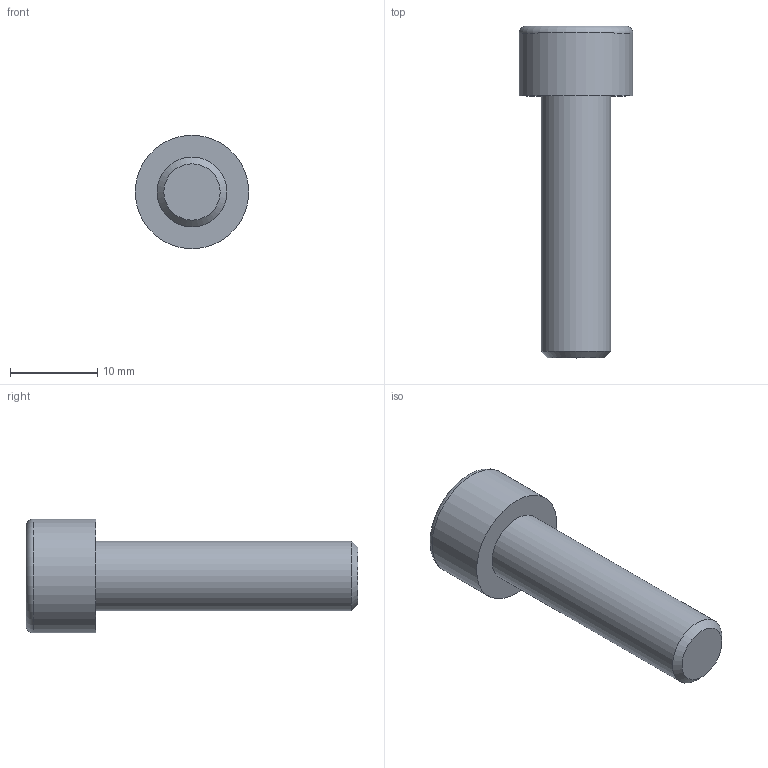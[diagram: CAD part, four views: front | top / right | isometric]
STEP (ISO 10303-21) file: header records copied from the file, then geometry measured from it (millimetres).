
FILE_DESCRIPTION(/* description */ (''),/* implementation_level */ '2;1');
FILE_NAME(/* name */ 'C:\Users\D\Documents\Inventor\各種小物\JIS\JIS B 1176 六角穴付きボルト\M8x30.stp',/* time_stamp */ '2022-05-09T18:52:32+09:00',/* author */ ('D'),/* organization */ (''),/* preprocessor_version */ 'ST-DEVELOPER v18',/* originating_system */ 'Autodesk Inventor 2020',/* authorisation */ '');
FILE_SCHEMA (('AUTOMOTIVE_DESIGN { 1 0 10303 214 3 1 1 }'));
Length unit declared in the file: millimetre
Products named in the file (1): M1.6x2.5
Bounding box: 13 x 38 x 13 mm (x, y, z)
Volume: 2408.2 mm3; surface area: 1411.4 mm2
Topology: 1 solids, 1 shells, 14 faces, 33 edges, 22 vertices
Faces by surface type: plane 9, cone 2, cylinder 2, torus 1
Full cylindrical faces by diameter (mm): 8 x1, 13 x1
Entity records: 435 total; most frequent: CARTESIAN_POINT 83, ORIENTED_EDGE 64, DIRECTION 64, EDGE_CURVE 32, AXIS2_PLACEMENT_3D 24, VERTEX_POINT 22, EDGE_LOOP 16, LINE 16
